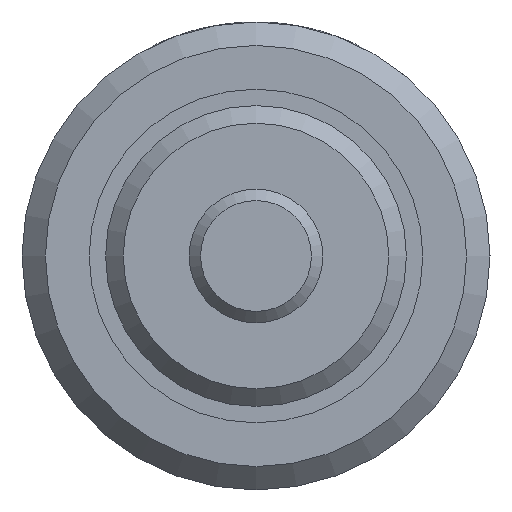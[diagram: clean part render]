
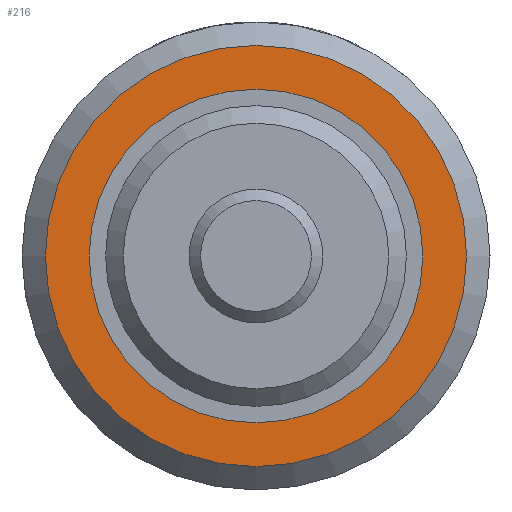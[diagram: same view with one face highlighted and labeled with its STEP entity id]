
A CAD part, left-side view. The second image highlights one B-rep face of the part: STEP entity #216.
In plain terms, the highlighted planar face has unit normal (-1, 0, 0).
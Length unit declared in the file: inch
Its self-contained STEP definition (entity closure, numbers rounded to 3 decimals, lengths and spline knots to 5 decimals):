
#216 = ADVANCED_FACE( '', ( #452, #453 ), #454, .F. );
#452 = FACE_OUTER_BOUND( '', #700, .T. );
#453 = FACE_BOUND( '', #701, .T. );
#454 = PLANE( '', #702 );
#700 = EDGE_LOOP( '', ( #1082 ) );
#701 = EDGE_LOOP( '', ( #1083 ) );
#702 = AXIS2_PLACEMENT_3D( '', #1084, #1085, #1086 );
#1082 = ORIENTED_EDGE( '', *, *, #1303, .F. );
#1083 = ORIENTED_EDGE( '', *, *, #1336, .T. );
#1084 = CARTESIAN_POINT( '', ( 0.5, 0.312, 0. ) );
#1085 = DIRECTION( '', ( 1., 0., 0. ) );
#1086 = DIRECTION( '', ( 0., 0., -1. ) );
#1303 = EDGE_CURVE( '', #1515, #1515, #1516, .T. );
#1336 = EDGE_CURVE( '', #1566, #1566, #1567, .T. );
#1515 = VERTEX_POINT( '', #1880 );
#1516 = CIRCLE( '', #1881, 0.39375 );
#1566 = VERTEX_POINT( '', #2018 );
#1567 = CIRCLE( '', #2019, 0.312 );
#1880 = CARTESIAN_POINT( '', ( 0.5, 0., -0.39375 ) );
#1881 = AXIS2_PLACEMENT_3D( '', #2261, #2262, #2263 );
#2018 = CARTESIAN_POINT( '', ( 0.5, 0., -0.312 ) );
#2019 = AXIS2_PLACEMENT_3D( '', #2306, #2307, #2308 );
#2261 = CARTESIAN_POINT( '', ( 0.5, 0., 0. ) );
#2262 = DIRECTION( '', ( 1., 0., 0. ) );
#2263 = DIRECTION( '', ( 0., 0., -1. ) );
#2306 = CARTESIAN_POINT( '', ( 0.5, 0., 0. ) );
#2307 = DIRECTION( '', ( 1., 0., 0. ) );
#2308 = DIRECTION( '', ( 0., 0., -1. ) );
